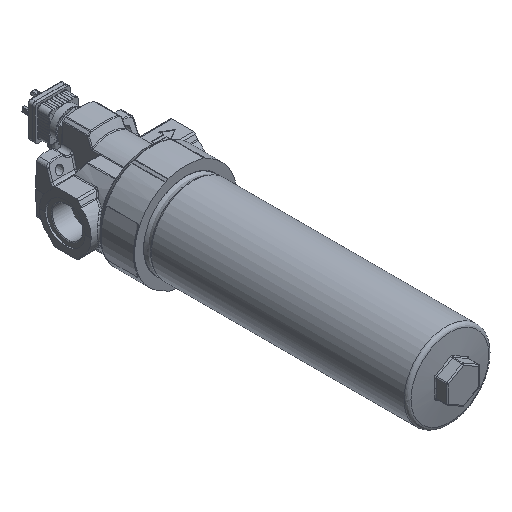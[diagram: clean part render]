
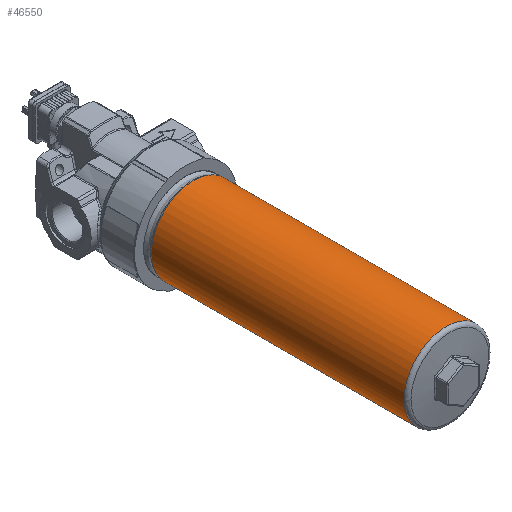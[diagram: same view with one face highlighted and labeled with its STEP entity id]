
A CAD part, isometric view. The second image highlights one B-rep face of the part: STEP entity #46550.
In plain terms, the highlighted free-form (B-spline) face has degree [2, 1] with [7, 2] control points.
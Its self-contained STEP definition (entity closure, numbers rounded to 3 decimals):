
#46440=CARTESIAN_POINT('V1759',(-35.0,-220.024,0.0));
#46441=VERTEX_POINT('V1759',#46440);
#46455=CARTESIAN_POINT('E2751',(-35.0,-220.024,0.0));
#46456=CARTESIAN_POINT('E2751',(-35.0,-220.024,
   1.718));
#46457=CARTESIAN_POINT('E2751',(-34.746,
   -220.024,5.156));
#46458=CARTESIAN_POINT('E2751',(-33.613,
   -220.024,10.199));
#46459=CARTESIAN_POINT('E2751',(-31.752,
   -220.024,15.023));
#46460=CARTESIAN_POINT('E2751',(-29.204,
   -220.024,19.52));
#46461=CARTESIAN_POINT('E2751',(-26.023,
   -220.024,23.595));
#46462=CARTESIAN_POINT('E2751',(-22.278,
   -220.024,27.159));
#46463=CARTESIAN_POINT('E2751',(-18.05,
   -220.024,30.134));
#46464=CARTESIAN_POINT('E2751',(-13.018,
   -220.024,32.666));
#46465=CARTESIAN_POINT('E2751',(-7.181,
   -220.024,34.464));
#46466=CARTESIAN_POINT('E2751',(-0.65,
   -220.024,35.199));
#46467=CARTESIAN_POINT('E2751',(5.904,
   -220.024,34.706));
#46468=CARTESIAN_POINT('E2751',(12.515,
   -220.024,32.933));
#46469=CARTESIAN_POINT('E2751',(18.9,
   -220.024,29.766));
#46470=CARTESIAN_POINT('E2751',(24.569,
   -220.024,25.266));
#46471=CARTESIAN_POINT('E2751',(29.104,
   -220.024,19.845));
#46472=CARTESIAN_POINT('E2751',(32.416,
   -220.024,13.786));
#46473=CARTESIAN_POINT('E2751',(34.483,
   -220.024,7.197));
#46474=CARTESIAN_POINT('E2751',(35.217,
   -220.024,0.396));
#46475=CARTESIAN_POINT('E2751',(34.635,
   -220.024,-6.353));
#46476=CARTESIAN_POINT('E2751',(32.802,
   -220.024,-12.807));
#46477=CARTESIAN_POINT('E2751',(29.777,
   -220.024,-18.796));
#46478=CARTESIAN_POINT('E2751',(25.716,
   -220.024,-24.045));
#46479=CARTESIAN_POINT('E2751',(20.803,
   -220.024,-28.394));
#46480=CARTESIAN_POINT('E2751',(15.237,
   -220.024,-31.731));
#46481=CARTESIAN_POINT('E2751',(9.153,
   -220.024,-33.988));
#46482=CARTESIAN_POINT('E2751',(1.877,
   -220.024,-35.244));
#46483=CARTESIAN_POINT('E2751',(-6.428,
   -220.024,-34.812));
#46484=CARTESIAN_POINT('E2751',(-14.325,
   -220.024,-32.254));
#46485=CARTESIAN_POINT('E2751',(-20.649,
   -220.024,-28.503));
#46486=CARTESIAN_POINT('E2751',(-25.559,
   -220.024,-24.208));
#46487=CARTESIAN_POINT('E2751',(-29.637,
   -220.024,-19.013));
#46488=CARTESIAN_POINT('E2751',(-32.696,
   -220.024,-13.069));
#46489=CARTESIAN_POINT('E2751',(-34.577,
   -220.024,-6.655));
#46490=CARTESIAN_POINT('E2751',(-35.0,-220.024,
   -2.217));
#46491=CARTESIAN_POINT('E2751',(-35.0,-220.024,0.0));
#46492=B_SPLINE_CURVE_WITH_KNOTS('E2751',3,(#46455,#46456,#46457,
   #46458,#46459,#46460,#46461,#46462,#46463,#46464,#46465,#46466,
   #46467,#46468,#46469,#46470,#46471,#46472,#46473,#46474,#46475,
   #46476,#46477,#46478,#46479,#46480,#46481,#46482,#46483,#46484,
   #46485,#46486,#46487,#46488,#46489,#46490,#46491),.UNSPECIFIED.,
   .T.,.U.,(4,1,1,1,1,1,1,1,1,1,1,1,1,1,1,1,1,1,1,1,1,1,1,1,1,1,1,1,
   1,1,1,1,1,1,4),(2.0,3.059,4.118,
   5.177,6.235,7.294,
   8.353,9.412,10.471,
   11.815,13.158,14.502,
   15.846,17.357,18.868,
   20.28,21.691,23.102,
   24.513,25.885,27.256,
   28.627,29.999,31.326,
   32.653,33.98,35.307,
   37.182,39.058,40.375,
   41.693,43.06,44.426,
   45.793,47.159),.UNSPECIFIED.);
#46493=EDGE_CURVE('E2751',#46441,#46441,#46492,.T.);
#46500=CARTESIAN_POINT('F1034',(-35.0,-10.438,0.0));
#46501=CARTESIAN_POINT('F1034',(-35.0,-10.438,
   -60.622));
#46502=CARTESIAN_POINT('F1034',(17.5,
   -10.438,-30.311));
#46503=CARTESIAN_POINT('F1034',(70.0,-10.438,
   0.));
#46504=CARTESIAN_POINT('F1034',(17.5,
   -10.438,30.311));
#46505=CARTESIAN_POINT('F1034',(-35.0,-10.438,
   60.622));
#46506=CARTESIAN_POINT('F1034',(-35.0,-10.438,0.0));
#46507=CARTESIAN_POINT('F1034',(-35.0,-222.773,0.0));
#46508=CARTESIAN_POINT('F1034',(-35.0,-222.773,
   -60.622));
#46509=CARTESIAN_POINT('F1034',(17.5,
   -222.773,-30.311));
#46510=CARTESIAN_POINT('F1034',(70.0,-222.773,
   0.));
#46511=CARTESIAN_POINT('F1034',(17.5,
   -222.773,30.311));
#46512=CARTESIAN_POINT('F1034',(-35.0,-222.773,
   60.622));
#46513=CARTESIAN_POINT('F1034',(-35.0,-222.773,0.0));
#46521=(BOUNDED_SURFACE()B_SPLINE_SURFACE(2,1,((#46500,#46507),(
   #46501,#46508),(#46502,#46509),(#46503,#46510),(#46504,
   #46511),(#46505,#46512),(#46506,#46513)),.CYLINDRICAL_SURF.,
   .T.,.F.,.U.)B_SPLINE_SURFACE_WITH_KNOTS((3,2,2,3),(2,2),(0.0,
   0.571,1.142,1.713),(0.0,1.0),
   .UNSPECIFIED.)GEOMETRIC_REPRESENTATION_ITEM()
   RATIONAL_B_SPLINE_SURFACE(((1.0,1.0),(0.5,
   0.5),(1.0,1.0),(0.5,
   0.5),(1.0,1.0),(0.5,
   0.5),(1.0,1.0)))REPRESENTATION_ITEM('F1034')
   SURFACE());
#46522=ORIENTED_EDGE('E2751',*,*,#46493,.T.);
#46523=CARTESIAN_POINT('V1804',(-35.0,-10.438,0.0));
#46524=VERTEX_POINT('V1804',#46523);
#46525=CARTESIAN_POINT('E2841',(-35.0,-220.024,0.0));
#46526=CARTESIAN_POINT('E2841',(-35.0,-10.438,0.0));
#46527=B_SPLINE_CURVE_WITH_KNOTS('E2841',1,(#46525,#46526),
   .POLYLINE_FORM.,.F.,.U.,(2,2),(0.013,1.0),
   .UNSPECIFIED.);
#46528=EDGE_CURVE('E2841',#46441,#46524,#46527,.T.);
#46529=ORIENTED_EDGE('E2841',*,*,#46528,.T.);
#46530=CARTESIAN_POINT('E2842',(-35.0,-10.438,0.0));
#46531=CARTESIAN_POINT('E2842',(-35.0,-10.438,
   -60.622));
#46532=CARTESIAN_POINT('E2842',(17.5,
   -10.438,-30.311));
#46533=CARTESIAN_POINT('E2842',(70.0,-10.438,
   0.));
#46534=CARTESIAN_POINT('E2842',(17.5,
   -10.438,30.311));
#46535=CARTESIAN_POINT('E2842',(-35.0,-10.438,
   60.622));
#46536=CARTESIAN_POINT('E2842',(-35.0,-10.438,0.0));
#46544=(BOUNDED_CURVE()B_SPLINE_CURVE(2,(#46530,#46531,#46532,
   #46533,#46534,#46535,#46536),.CIRCULAR_ARC.,.T.,.U.)
   B_SPLINE_CURVE_WITH_KNOTS((3,2,2,3),(0.0,0.571,
   1.142,1.713),.UNSPECIFIED.)CURVE()
   GEOMETRIC_REPRESENTATION_ITEM()RATIONAL_B_SPLINE_CURVE((1.0,
   0.5,1.0,0.5,1.0,0.5,1.0)
   )REPRESENTATION_ITEM('E2842'));
#46545=EDGE_CURVE('E2842',#46524,#46524,#46544,.T.);
#46546=ORIENTED_EDGE('E2842',*,*,#46545,.T.);
#46547=ORIENTED_EDGE('E2841',*,*,#46528,.F.);
#46548=EDGE_LOOP('F1034',(#46522,#46529,#46546,#46547));
#46549=FACE_OUTER_BOUND('F1034',#46548,.T.);
#46550=ADVANCED_FACE('F1034',(#46549),#46521,.T.);
